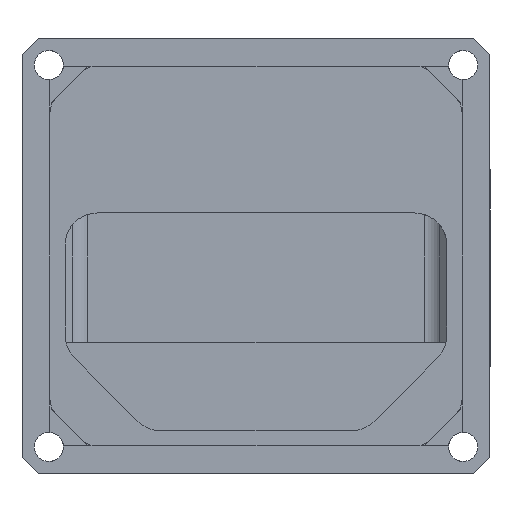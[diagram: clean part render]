
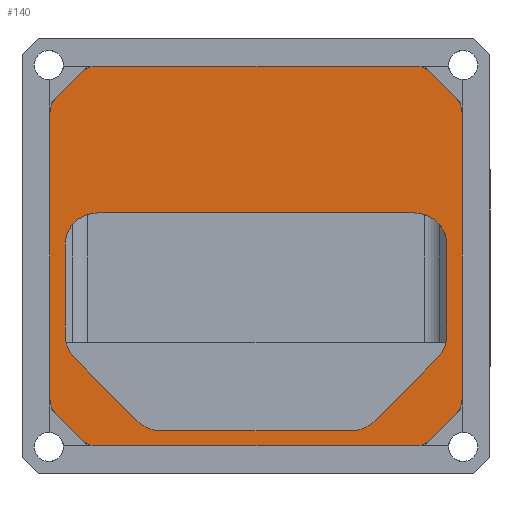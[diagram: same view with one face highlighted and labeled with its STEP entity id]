
A CAD part, front view. The second image highlights one B-rep face of the part: STEP entity #140.
In plain terms, the highlighted planar face has unit normal (0, -1, 0).
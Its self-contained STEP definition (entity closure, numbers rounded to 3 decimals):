
#140=ADVANCED_FACE('',(#430,#285),#1341,.T.);
#285=FACE_OUTER_BOUND('',#454,.F.);
#430=FACE_BOUND('',#453,.F.);
#453=EDGE_LOOP('',(#621,#622,#623,#624,#625,#626,#627,#628,#629,#630,#631,
#632));
#454=EDGE_LOOP('',(#633,#634,#635,#636,#637,#638,#639,#640,#641,#642,#643,
#644,#645,#646,#647,#648));
#621=ORIENTED_EDGE('',*,*,#1885,.T.);
#622=ORIENTED_EDGE('',*,*,#1879,.T.);
#623=ORIENTED_EDGE('',*,*,#1884,.T.);
#624=ORIENTED_EDGE('',*,*,#1878,.T.);
#625=ORIENTED_EDGE('',*,*,#1883,.T.);
#626=ORIENTED_EDGE('',*,*,#1877,.T.);
#627=ORIENTED_EDGE('',*,*,#1882,.T.);
#628=ORIENTED_EDGE('',*,*,#1876,.T.);
#629=ORIENTED_EDGE('',*,*,#1881,.T.);
#630=ORIENTED_EDGE('',*,*,#1875,.T.);
#631=ORIENTED_EDGE('',*,*,#1880,.T.);
#632=ORIENTED_EDGE('',*,*,#1874,.T.);
#633=ORIENTED_EDGE('',*,*,#1910,.T.);
#634=ORIENTED_EDGE('',*,*,#1886,.F.);
#635=ORIENTED_EDGE('',*,*,#1906,.T.);
#636=ORIENTED_EDGE('',*,*,#1889,.F.);
#637=ORIENTED_EDGE('',*,*,#1913,.T.);
#638=ORIENTED_EDGE('',*,*,#1891,.F.);
#639=ORIENTED_EDGE('',*,*,#1908,.T.);
#640=ORIENTED_EDGE('',*,*,#1894,.F.);
#641=ORIENTED_EDGE('',*,*,#1912,.T.);
#642=ORIENTED_EDGE('',*,*,#1896,.F.);
#643=ORIENTED_EDGE('',*,*,#1909,.T.);
#644=ORIENTED_EDGE('',*,*,#1899,.F.);
#645=ORIENTED_EDGE('',*,*,#1911,.T.);
#646=ORIENTED_EDGE('',*,*,#1903,.F.);
#647=ORIENTED_EDGE('',*,*,#1907,.T.);
#648=ORIENTED_EDGE('',*,*,#1901,.F.);
#1341=PLANE('',#2682);
#1428=LINE('',#3917,#1644);
#1429=LINE('',#3918,#1645);
#1430=LINE('',#3919,#1646);
#1431=LINE('',#3920,#1647);
#1432=LINE('',#3921,#1648);
#1433=LINE('',#3922,#1649);
#1446=LINE('',#3943,#1662);
#1447=LINE('',#3944,#1663);
#1448=LINE('',#3945,#1664);
#1449=LINE('',#3946,#1665);
#1450=LINE('',#3947,#1666);
#1451=LINE('',#3948,#1667);
#1452=LINE('',#3949,#1668);
#1453=LINE('',#3950,#1669);
#1644=VECTOR('',#2902,8.351);
#1645=VECTOR('',#2903,8.343);
#1646=VECTOR('',#2904,17.701);
#1647=VECTOR('',#2905,8.343);
#1648=VECTOR('',#2906,8.351);
#1649=VECTOR('',#2907,29.5);
#1662=VECTOR('',#2936,3.293);
#1663=VECTOR('',#2937,3.293);
#1664=VECTOR('',#2938,3.293);
#1665=VECTOR('',#2939,3.293);
#1666=VECTOR('',#2940,26.643);
#1667=VECTOR('',#2941,29.643);
#1668=VECTOR('',#2942,26.643);
#1669=VECTOR('',#2943,29.643);
#1874=EDGE_CURVE('',#2517,#2516,#2216,.T.);
#1875=EDGE_CURVE('',#2515,#2514,#2217,.T.);
#1876=EDGE_CURVE('',#2513,#2512,#2218,.T.);
#1877=EDGE_CURVE('',#2511,#2510,#2219,.T.);
#1878=EDGE_CURVE('',#2509,#2508,#2220,.T.);
#1879=EDGE_CURVE('',#2507,#2506,#2221,.T.);
#1880=EDGE_CURVE('',#2514,#2517,#1428,.T.);
#1881=EDGE_CURVE('',#2512,#2515,#1429,.T.);
#1882=EDGE_CURVE('',#2510,#2513,#1430,.T.);
#1883=EDGE_CURVE('',#2508,#2511,#1431,.T.);
#1884=EDGE_CURVE('',#2506,#2509,#1432,.T.);
#1885=EDGE_CURVE('',#2516,#2507,#1433,.T.);
#1886=EDGE_CURVE('',#2505,#2504,#2222,.T.);
#1889=EDGE_CURVE('',#2501,#2500,#2223,.T.);
#1891=EDGE_CURVE('',#2498,#2497,#2224,.T.);
#1894=EDGE_CURVE('',#2495,#2494,#2225,.T.);
#1896=EDGE_CURVE('',#2492,#2491,#2226,.T.);
#1899=EDGE_CURVE('',#2489,#2488,#2227,.T.);
#1901=EDGE_CURVE('',#2486,#2485,#2228,.T.);
#1903=EDGE_CURVE('',#2484,#2483,#2229,.T.);
#1906=EDGE_CURVE('',#2505,#2500,#1446,.T.);
#1907=EDGE_CURVE('',#2484,#2485,#1447,.T.);
#1908=EDGE_CURVE('',#2498,#2494,#1448,.T.);
#1909=EDGE_CURVE('',#2492,#2488,#1449,.T.);
#1910=EDGE_CURVE('',#2486,#2504,#1450,.T.);
#1911=EDGE_CURVE('',#2489,#2483,#1451,.T.);
#1912=EDGE_CURVE('',#2495,#2491,#1452,.T.);
#1913=EDGE_CURVE('',#2501,#2497,#1453,.T.);
#2216=CIRCLE('',#2586,3.);
#2217=CIRCLE('',#2587,3.);
#2218=CIRCLE('',#2588,3.);
#2219=CIRCLE('',#2589,3.);
#2220=CIRCLE('',#2590,3.);
#2221=CIRCLE('',#2591,3.);
#2222=CIRCLE('',#2592,2.);
#2223=CIRCLE('',#2593,2.);
#2224=CIRCLE('',#2594,2.);
#2225=CIRCLE('',#2595,2.);
#2226=CIRCLE('',#2596,2.);
#2227=CIRCLE('',#2597,2.);
#2228=CIRCLE('',#2598,2.);
#2229=CIRCLE('',#2599,2.);
#2483=VERTEX_POINT('',#3798);
#2484=VERTEX_POINT('',#3799);
#2485=VERTEX_POINT('',#3800);
#2486=VERTEX_POINT('',#3801);
#2488=VERTEX_POINT('',#3803);
#2489=VERTEX_POINT('',#3804);
#2491=VERTEX_POINT('',#3806);
#2492=VERTEX_POINT('',#3807);
#2494=VERTEX_POINT('',#3809);
#2495=VERTEX_POINT('',#3810);
#2497=VERTEX_POINT('',#3812);
#2498=VERTEX_POINT('',#3813);
#2500=VERTEX_POINT('',#3815);
#2501=VERTEX_POINT('',#3816);
#2504=VERTEX_POINT('',#3819);
#2505=VERTEX_POINT('',#3820);
#2506=VERTEX_POINT('',#3821);
#2507=VERTEX_POINT('',#3822);
#2508=VERTEX_POINT('',#3823);
#2509=VERTEX_POINT('',#3824);
#2510=VERTEX_POINT('',#3825);
#2511=VERTEX_POINT('',#3826);
#2512=VERTEX_POINT('',#3827);
#2513=VERTEX_POINT('',#3828);
#2514=VERTEX_POINT('',#3829);
#2515=VERTEX_POINT('',#3830);
#2516=VERTEX_POINT('',#3831);
#2517=VERTEX_POINT('',#3832);
#2586=AXIS2_PLACEMENT_3D('',#3911,#2890,#2891);
#2587=AXIS2_PLACEMENT_3D('',#3912,#2892,#2893);
#2588=AXIS2_PLACEMENT_3D('',#3913,#2894,#2895);
#2589=AXIS2_PLACEMENT_3D('',#3914,#2896,#2897);
#2590=AXIS2_PLACEMENT_3D('',#3915,#2898,#2899);
#2591=AXIS2_PLACEMENT_3D('',#3916,#2900,#2901);
#2592=AXIS2_PLACEMENT_3D('',#3923,#2908,#2909);
#2593=AXIS2_PLACEMENT_3D('',#3926,#2912,#2913);
#2594=AXIS2_PLACEMENT_3D('',#3928,#2915,#2916);
#2595=AXIS2_PLACEMENT_3D('',#3931,#2919,#2920);
#2596=AXIS2_PLACEMENT_3D('',#3933,#2922,#2923);
#2597=AXIS2_PLACEMENT_3D('',#3936,#2926,#2927);
#2598=AXIS2_PLACEMENT_3D('',#3938,#2929,#2930);
#2599=AXIS2_PLACEMENT_3D('',#3940,#2932,#2933);
#2682=AXIS2_PLACEMENT_3D('',#4187,#3262,#3263);
#2890=DIRECTION('',(0.,-1.,0.));
#2891=DIRECTION('',(1.,0.,0.));
#2892=DIRECTION('',(0.,-1.,0.));
#2893=DIRECTION('',(0.707,0.,-0.707));
#2894=DIRECTION('',(0.,-1.,0.));
#2895=DIRECTION('',(0.,0.,-1.));
#2896=DIRECTION('',(0.,-1.,0.));
#2897=DIRECTION('',(-0.707,0.,-0.707));
#2898=DIRECTION('',(0.,-1.,0.));
#2899=DIRECTION('',(-1.,0.,0.));
#2900=DIRECTION('',(0.,-1.,0.));
#2901=DIRECTION('',(0.,0.,1.));
#2902=DIRECTION('',(0.,0.,1.));
#2903=DIRECTION('',(0.707,0.,0.707));
#2904=DIRECTION('',(1.,0.,0.));
#2905=DIRECTION('',(0.707,0.,-0.707));
#2906=DIRECTION('',(0.,0.,-1.));
#2907=DIRECTION('',(-1.,0.,0.));
#2908=DIRECTION('',(0.,-1.,0.));
#2909=DIRECTION('',(-0.707,0.,0.707));
#2912=DIRECTION('',(0.,-1.,0.));
#2913=DIRECTION('',(0.,0.,1.));
#2915=DIRECTION('',(0.,-1.,0.));
#2916=DIRECTION('',(0.707,0.,0.707));
#2919=DIRECTION('',(0.,-1.,0.));
#2920=DIRECTION('',(1.,0.,0.));
#2922=DIRECTION('',(0.,-1.,0.));
#2923=DIRECTION('',(0.707,0.,-0.707));
#2926=DIRECTION('',(0.,-1.,0.));
#2927=DIRECTION('',(0.,0.,-1.));
#2929=DIRECTION('',(0.,-1.,0.));
#2930=DIRECTION('',(-1.,0.,0.));
#2932=DIRECTION('',(0.,-1.,0.));
#2933=DIRECTION('',(-0.707,0.,-0.707));
#2936=DIRECTION('',(0.707,0.,0.707));
#2937=DIRECTION('',(-0.707,0.,0.707));
#2938=DIRECTION('',(0.707,0.,-0.707));
#2939=DIRECTION('',(-0.707,0.,-0.707));
#2940=DIRECTION('',(0.,0.,1.));
#2941=DIRECTION('',(-1.,0.,0.));
#2942=DIRECTION('',(0.,0.,-1.));
#2943=DIRECTION('',(1.,0.,0.));
#3262=DIRECTION('',(0.,-1.,0.));
#3263=DIRECTION('',(1.,0.,0.));
#3798=CARTESIAN_POINT('',(-10.064,-4.945,218.093));
#3799=CARTESIAN_POINT('',(-11.479,-4.945,218.679));
#3800=CARTESIAN_POINT('',(-13.807,-4.945,221.007));
#3801=CARTESIAN_POINT('',(-14.393,-4.945,222.421));
#3803=CARTESIAN_POINT('',(20.993,-4.945,218.679));
#3804=CARTESIAN_POINT('',(19.579,-4.945,218.093));
#3806=CARTESIAN_POINT('',(23.907,-4.945,222.421));
#3807=CARTESIAN_POINT('',(23.321,-4.945,221.007));
#3809=CARTESIAN_POINT('',(23.321,-4.945,250.479));
#3810=CARTESIAN_POINT('',(23.907,-4.945,249.065));
#3812=CARTESIAN_POINT('',(19.579,-4.945,253.393));
#3813=CARTESIAN_POINT('',(20.993,-4.945,252.807));
#3815=CARTESIAN_POINT('',(-11.479,-4.945,252.807));
#3816=CARTESIAN_POINT('',(-10.064,-4.945,253.393));
#3819=CARTESIAN_POINT('',(-14.393,-4.945,249.065));
#3820=CARTESIAN_POINT('',(-13.807,-4.945,250.479));
#3821=CARTESIAN_POINT('',(-12.993,-4.945,236.743));
#3822=CARTESIAN_POINT('',(-9.993,-4.945,239.743));
#3823=CARTESIAN_POINT('',(-12.114,-4.945,226.271));
#3824=CARTESIAN_POINT('',(-12.993,-4.945,228.393));
#3825=CARTESIAN_POINT('',(-4.093,-4.945,219.493));
#3826=CARTESIAN_POINT('',(-6.215,-4.945,220.372));
#3827=CARTESIAN_POINT('',(15.729,-4.945,220.372));
#3828=CARTESIAN_POINT('',(13.608,-4.945,219.493));
#3829=CARTESIAN_POINT('',(22.507,-4.945,228.393));
#3830=CARTESIAN_POINT('',(21.629,-4.945,226.271));
#3831=CARTESIAN_POINT('',(19.507,-4.945,239.743));
#3832=CARTESIAN_POINT('',(22.507,-4.945,236.743));
#3911=CARTESIAN_POINT('',(19.507,-4.945,236.743));
#3912=CARTESIAN_POINT('',(19.507,-4.945,228.393));
#3913=CARTESIAN_POINT('',(13.608,-4.945,222.493));
#3914=CARTESIAN_POINT('',(-4.093,-4.945,222.493));
#3915=CARTESIAN_POINT('',(-9.993,-4.945,228.393));
#3916=CARTESIAN_POINT('',(-9.993,-4.945,236.743));
#3917=CARTESIAN_POINT('',(22.507,-4.945,228.393));
#3918=CARTESIAN_POINT('',(15.729,-4.945,220.372));
#3919=CARTESIAN_POINT('',(-4.093,-4.945,219.493));
#3920=CARTESIAN_POINT('',(-12.114,-4.945,226.271));
#3921=CARTESIAN_POINT('',(-12.993,-4.945,236.743));
#3922=CARTESIAN_POINT('',(19.507,-4.945,239.743));
#3923=CARTESIAN_POINT('',(-12.393,-4.945,249.065));
#3926=CARTESIAN_POINT('',(-10.064,-4.945,251.393));
#3928=CARTESIAN_POINT('',(19.579,-4.945,251.393));
#3931=CARTESIAN_POINT('',(21.907,-4.945,249.065));
#3933=CARTESIAN_POINT('',(21.907,-4.945,222.421));
#3936=CARTESIAN_POINT('',(19.579,-4.945,220.093));
#3938=CARTESIAN_POINT('',(-12.393,-4.945,222.421));
#3940=CARTESIAN_POINT('',(-10.064,-4.945,220.093));
#3943=CARTESIAN_POINT('',(-13.807,-4.945,250.479));
#3944=CARTESIAN_POINT('',(-11.479,-4.945,218.679));
#3945=CARTESIAN_POINT('',(20.993,-4.945,252.807));
#3946=CARTESIAN_POINT('',(23.321,-4.945,221.007));
#3947=CARTESIAN_POINT('',(-14.393,-4.945,222.421));
#3948=CARTESIAN_POINT('',(19.579,-4.945,218.093));
#3949=CARTESIAN_POINT('',(23.907,-4.945,249.065));
#3950=CARTESIAN_POINT('',(-10.064,-4.945,253.393));
#4187=CARTESIAN_POINT('',(-14.776,-4.945,217.71));
